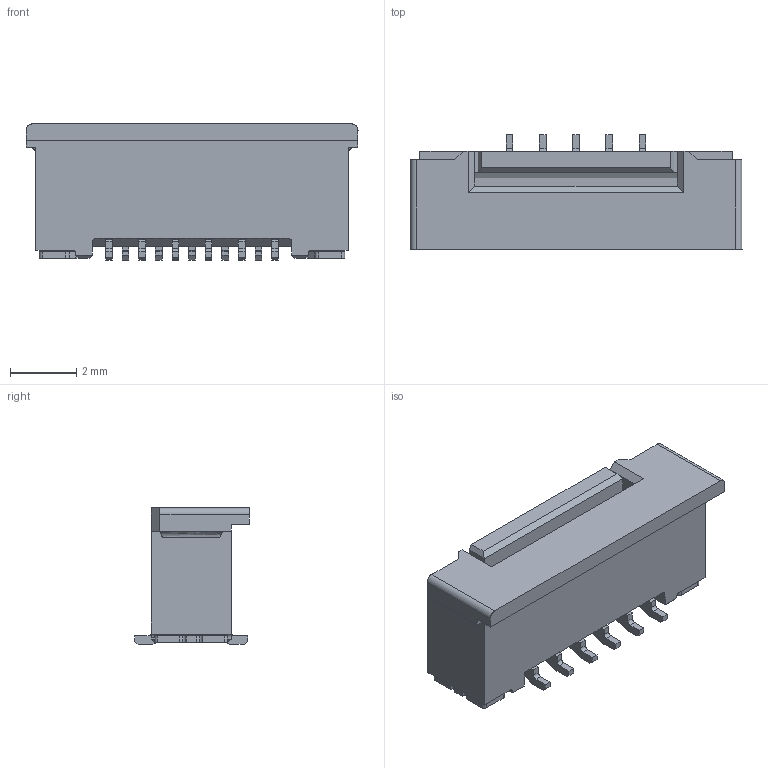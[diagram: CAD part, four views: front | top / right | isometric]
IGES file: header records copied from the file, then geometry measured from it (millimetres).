
Start section: SolidWorks IGES file using analytic representation for surfaces
Global section: file name: N:\Kamikawa_Hisako\★三次元モデル作成依頼\6214\6214_HP_修正\00_6214_XXX_010_ALL\006214011010.IGS; native system: SolidWorks 2017; preprocessor: SolidWorks 2017; author: HISAKO.KAMIKAWA.FJ; date: 211221.135831; units: millimetre
Bounding box: 10 x 3.45 x 4.1 mm (x, y, z)
Surface area: 211.6 mm2 (no closed solid volume)
Topology: 0 solids, 0 shells, 315 faces, 2188 edges, 2181 vertices
Faces by surface type: bspline 250, revolution 65
